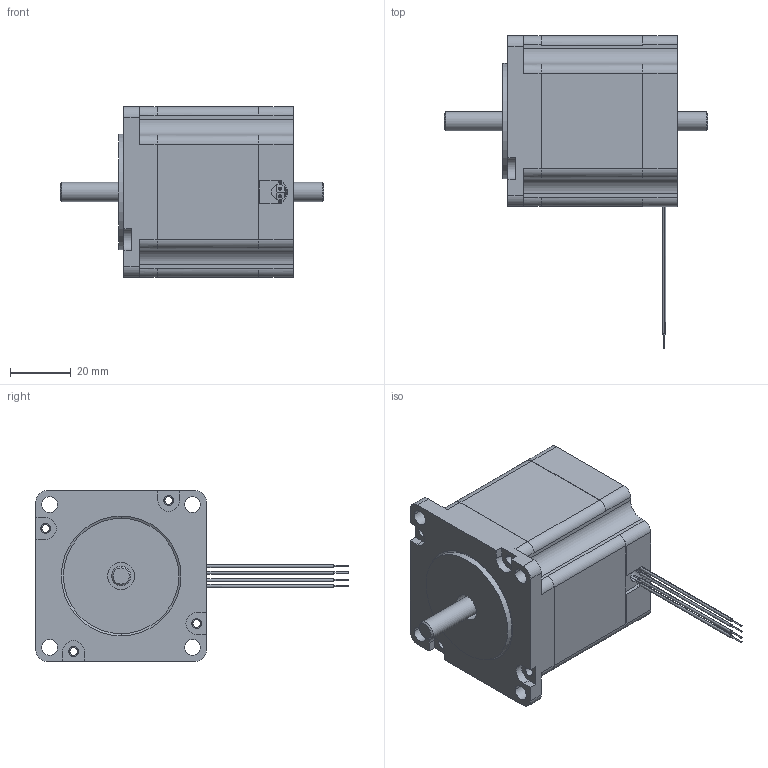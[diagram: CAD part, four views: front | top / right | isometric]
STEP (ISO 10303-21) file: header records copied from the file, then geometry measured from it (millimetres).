
FILE_DESCRIPTION( ('This file contains a STEP AP42 implementation' ,'as created by ZW3D STEP Interface translator.' ,'') ,'2;1' );
FILE_NAME( '57HSXXH-XXXX-XXX_潠趙婦釐.stp' ,'26 115. 94124', (''), ('ZWCAD Software Co.'), 'Version 1.0', 'ZW3D to STEP translator', '' );
FILE_SCHEMA(('AUTOMOTIVE_DESIGN { 1 0 10303 214 1 1 1 1 }'));
Length unit declared in the file: millimetre
Products named in the file (1): 0
Bounding box: 87.01 x 103.22 x 56.44 mm (x, y, z)
Volume: 87431.4 mm3; surface area: 62112.2 mm2
Topology: 4 solids, 4 shells, 1245 faces, 3925 edges, 2532 vertices
Faces by surface type: cylinder 565, plane 508, torus 112, cone 60
Full cylindrical faces by diameter (mm): 6.35 x2, 38.1 x1
Entity records: 45574 total; most frequent: CARTESIAN_POINT 7983, DIRECTION 7929, ORIENTED_EDGE 7866, EDGE_CURVE 3925, AXIS2_PLACEMENT_3D 2846, VERTEX_POINT 2532, VECTOR 2237, LINE 2237
